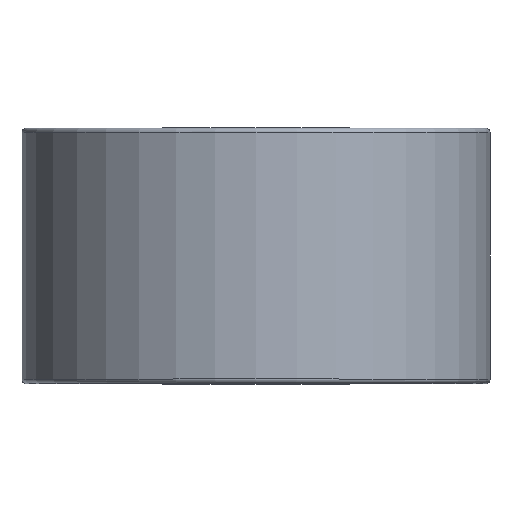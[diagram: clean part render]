
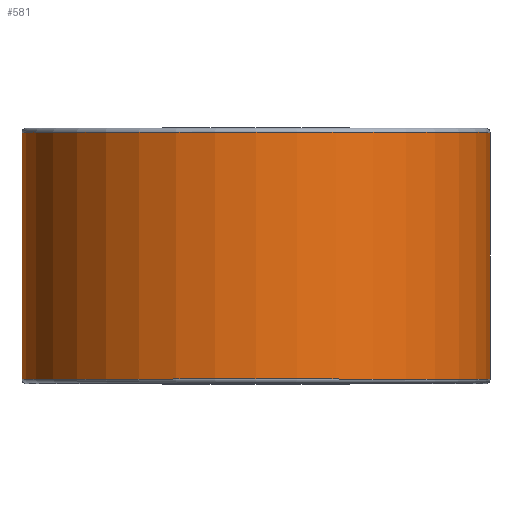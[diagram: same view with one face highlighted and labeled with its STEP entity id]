
A CAD part, top view. The second image highlights one B-rep face of the part: STEP entity #581.
In plain terms, the highlighted cylindrical face has radius 550 mm (diameter 1100 mm), a full revolution.
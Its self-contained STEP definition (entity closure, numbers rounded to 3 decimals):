
#57=FACE_BOUND('',#191,.T.);
#123=FACE_OUTER_BOUND('',#190,.T.);
#190=EDGE_LOOP('',(#460));
#191=EDGE_LOOP('',(#461));
#284=CIRCLE('',#667,550.);
#286=CIRCLE('',#670,550.);
#338=VERTEX_POINT('',#1018);
#340=VERTEX_POINT('',#1023);
#392=EDGE_CURVE('',#338,#338,#284,.T.);
#394=EDGE_CURVE('',#340,#340,#286,.T.);
#460=ORIENTED_EDGE('',*,*,#394,.F.);
#461=ORIENTED_EDGE('',*,*,#392,.F.);
#542=CYLINDRICAL_SURFACE('',#669,550.);
#581=ADVANCED_FACE('',(#123,#57),#542,.T.);
#667=AXIS2_PLACEMENT_3D('',#1019,#826,#827);
#669=AXIS2_PLACEMENT_3D('',#1022,#830,#831);
#670=AXIS2_PLACEMENT_3D('',#1024,#832,#833);
#826=DIRECTION('center_axis',(0.,1.,0.));
#827=DIRECTION('ref_axis',(1.,0.,0.));
#830=DIRECTION('center_axis',(0.,1.,0.));
#831=DIRECTION('ref_axis',(1.,0.,0.));
#832=DIRECTION('center_axis',(0.,-1.,0.));
#833=DIRECTION('ref_axis',(1.,0.,0.));
#1018=CARTESIAN_POINT('',(-550.,290.,0.));
#1019=CARTESIAN_POINT('Origin',(0.,290.,0.));
#1022=CARTESIAN_POINT('Origin',(0.,0.,0.));
#1023=CARTESIAN_POINT('',(-550.,-290.,0.));
#1024=CARTESIAN_POINT('Origin',(0.,-290.,0.));
